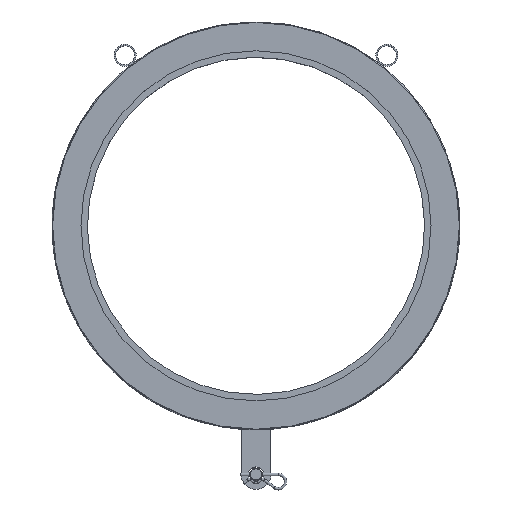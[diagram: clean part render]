
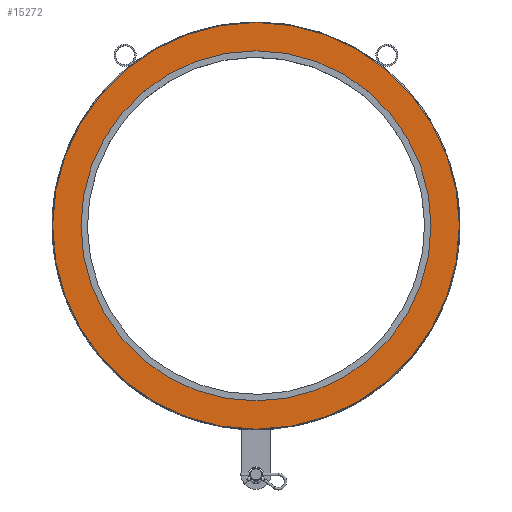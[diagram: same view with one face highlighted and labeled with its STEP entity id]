
A CAD part, top view. The second image highlights one B-rep face of the part: STEP entity #15272.
In plain terms, the highlighted planar face has unit normal (0, 0, 1).
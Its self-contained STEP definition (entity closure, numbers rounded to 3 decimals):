
#507=FACE_BOUND('',#3380,.T.);
#1641=PLANE('',#16112);
#2455=FACE_OUTER_BOUND('',#3379,.T.);
#3379=EDGE_LOOP('',(#13996));
#3380=EDGE_LOOP('',(#13997));
#5897=CIRCLE('',#16108,352.5);
#5898=CIRCLE('',#16110,409.5);
#7379=VERTEX_POINT('',#36023);
#7380=VERTEX_POINT('',#36027);
#9603=EDGE_CURVE('',#7379,#7379,#5897,.T.);
#9605=EDGE_CURVE('',#7380,#7380,#5898,.T.);
#13996=ORIENTED_EDGE('',*,*,#9605,.F.);
#13997=ORIENTED_EDGE('',*,*,#9603,.T.);
#15272=ADVANCED_FACE('',(#2455,#507),#1641,.T.);
#16108=AXIS2_PLACEMENT_3D('',#36024,#18737,#18738);
#16110=AXIS2_PLACEMENT_3D('',#36028,#18742,#18743);
#16112=AXIS2_PLACEMENT_3D('',#36031,#18747,#18748);
#18737=DIRECTION('center_axis',(0.,0.,
-1.));
#18738=DIRECTION('ref_axis',(-1.,0.,0.));
#18742=DIRECTION('center_axis',(0.,0.,
-1.));
#18743=DIRECTION('ref_axis',(-1.,0.,0.));
#18747=DIRECTION('center_axis',(0.,0.,
1.));
#18748=DIRECTION('ref_axis',(-1.,0.,0.));
#36023=CARTESIAN_POINT('',(352.5,0.,140.));
#36024=CARTESIAN_POINT('Origin',(0.,0.,
140.));
#36027=CARTESIAN_POINT('',(409.5,0.,140.));
#36028=CARTESIAN_POINT('Origin',(0.,0.,
140.));
#36031=CARTESIAN_POINT('Origin',(0.,0.,
140.));
